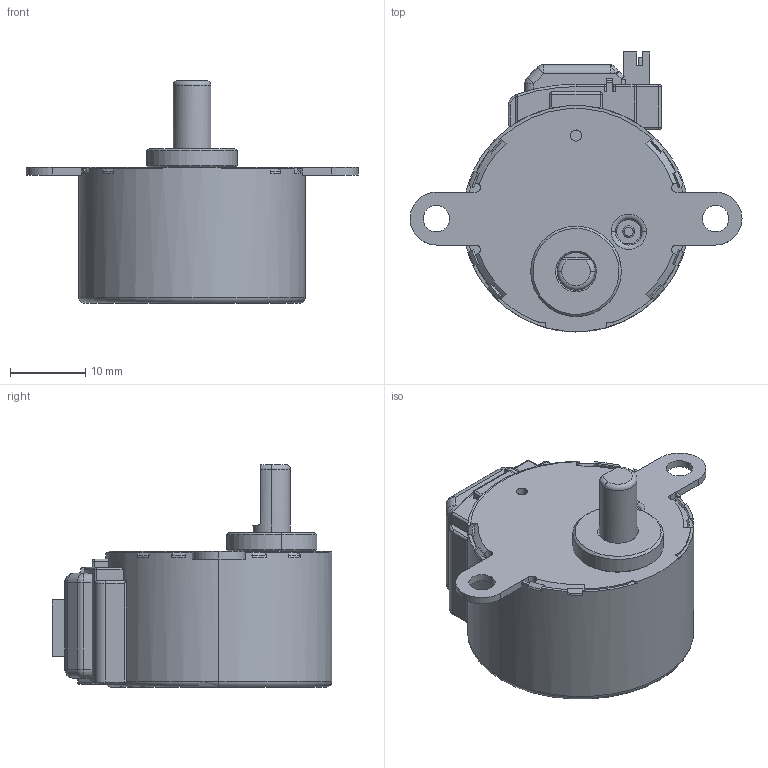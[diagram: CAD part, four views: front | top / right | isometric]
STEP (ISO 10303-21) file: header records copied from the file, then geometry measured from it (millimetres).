
FILE_DESCRIPTION (( 'STEP AP203' ), '1' );
FILE_NAME ('KFG30A_3D.STEP', '2026-01-23T02:31:44', ( '' ), ( '' ), 'SwSTEP 2.0', 'SolidWorks 2022', '' );
FILE_SCHEMA (( 'CONFIG_CONTROL_DESIGN' ));
Length unit declared in the file: millimetre
Products named in the file (1): KFG30A_3D
Bounding box: 44 x 37.1 x 29.5 mm (x, y, z)
Volume: 14730.8 mm3; surface area: 4214.7 mm2
Topology: 1 solids, 1 shells, 397 faces, 1028 edges, 631 vertices
Faces by surface type: plane 162, cylinder 139, cone 40, torus 30, sphere 24, bspline 2
Entity records: 12512 total; most frequent: CARTESIAN_POINT 2795, DIRECTION 2056, ORIENTED_EDGE 2026, EDGE_CURVE 1013, AXIS2_PLACEMENT_3D 779, VERTEX_POINT 631, VECTOR 498, LINE 498
